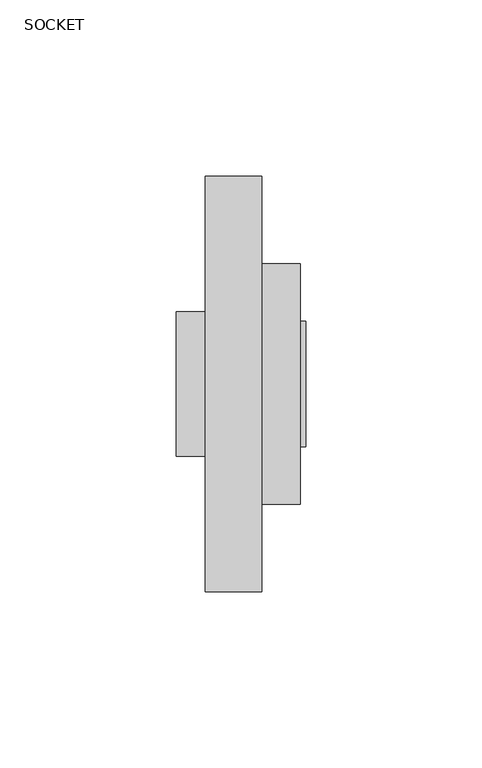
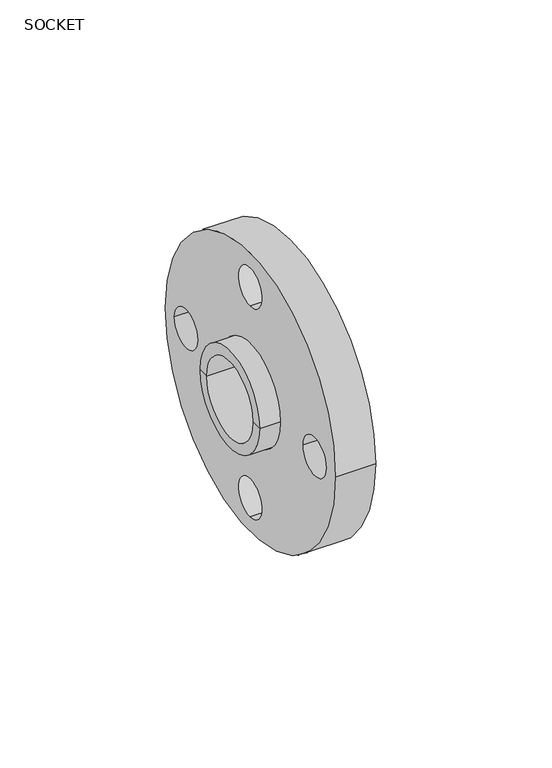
"""IFC4 building model written with IfcOpenShell, lengths in millimetres: valve geometry, Aquatherm - Flange Adapter Socket : SOCKET."""

from ifc_helpers import new_model, si_unit, point, frame, frame_2d, origin, origin_2d, place, context, project, spatial, polyline, circle_curve, trimmed, segment, composite_curve, outline, extrude, source, transform, mapped, element, save
from ifc_brep_helpers import plane_surface, cylinder_surface, revolved_surface, advanced_brep


def socket_70ea444d(model_context):
    return source(origin(), model_context, "Body", "SolidModel", [
        extrude(outline(composite_curve([segment(trimmed(circle_curve(origin_2d(), 58.801), [point((-58.801, 0.0))], [point((58.801, 0.0))], False, "CARTESIAN"), True, "CONTINUOUS"), segment(trimmed(circle_curve(origin_2d(), 58.801), [point((58.801, 0.0))], [point((-58.801, 0.0))], False, "CARTESIAN"), True, "CONTINUOUS")], self_intersect=False), holes=[composite_curve([segment(trimmed(circle_curve(origin_2d(), 20.701), [point((-20.701, 0.0))], [point((20.701, 0.0))], True, "CARTESIAN"), True, "CONTINUOUS"), segment(trimmed(circle_curve(origin_2d(), 20.701), [point((20.701, 0.0))], [point((-20.701, 0.0))], True, "CARTESIAN"), True, "CONTINUOUS")], self_intersect=False), composite_curve([segment(trimmed(circle_curve(frame_2d((44.45, 0.0)), 8.001), [point((36.449, 0.0))], [point((52.451, 0.0))], True, "CARTESIAN"), True, "CONTINUOUS"), segment(trimmed(circle_curve(frame_2d((44.45, 0.0)), 8.001), [point((52.451, 0.0))], [point((36.449, 0.0))], True, "CARTESIAN"), True, "CONTINUOUS")], self_intersect=False), composite_curve([segment(trimmed(circle_curve(frame_2d((0.0, -44.45)), 8.001), [point((0.0, -36.449))], [point((0.0, -52.451))], True, "CARTESIAN"), True, "CONTINUOUS"), segment(trimmed(circle_curve(frame_2d((0.0, -44.45)), 8.001), [point((0.0, -52.451))], [point((0.0, -36.449))], True, "CARTESIAN"), True, "CONTINUOUS")], self_intersect=False), composite_curve([segment(trimmed(circle_curve(frame_2d((0.0, 44.45)), 8.001), [point((0.0, 36.449))], [point((0.0, 52.451))], True, "CARTESIAN"), True, "CONTINUOUS"), segment(trimmed(circle_curve(frame_2d((0.0, 44.45)), 8.001), [point((0.0, 52.451))], [point((0.0, 36.449))], True, "CARTESIAN"), True, "CONTINUOUS")], self_intersect=False), composite_curve([segment(trimmed(circle_curve(frame_2d((-44.45, 0.0)), 8.001), [point((-36.449, 0.0))], [point((-52.451, 0.0))], True, "CARTESIAN"), True, "CONTINUOUS"), segment(trimmed(circle_curve(frame_2d((-44.45, 0.0)), 8.001), [point((-52.451, 0.0))], [point((-36.449, 0.0))], True, "CARTESIAN"), True, "CONTINUOUS")], self_intersect=False)]), frame((-16.002, 0.0, 0.0), z_axis=(1.0, 0.0, 0.0), x_axis=(0.0, 1.0, 0.0)), (0.0, 0.0, 1.0), 16.002),
        advanced_brep(
        [(12.446, 12.7, 0.0), (12.446, -12.7, 0.0), (12.446, -17.78, 0.0), (12.446, 17.78, 0.0), (-6.096, 12.7, 0.0), (-6.096, -12.7, 0.0), (-6.096, 16.002, 0.0), (-6.096, -16.002, 0.0), (-24.13, 16.002, 0.0), (-24.13, -16.002, 0.0), (-24.13, 20.447, 0.0), (-24.13, -20.447, 0.0), (0.0, 20.447, 0.0), (0.0, -20.447, 0.0), (0.0, 34.036, 0.0), (0.0, -34.036, 0.0), (10.922, 34.036, 0.0), (10.922, -34.036, 0.0), (10.922, 17.78, 0.0), (10.922, -17.78, 0.0)],
        [
            (0, 1, circle_curve(frame((12.446, 0.0, 0.0), z_axis=(-1.0, 0.0, 0.0), x_axis=(0.0, -1.0, 0.0)), 12.7)),
            (1, 2),
            (2, 3, circle_curve(frame((12.446, 0.0, 0.0), z_axis=(1.0, 0.0, 0.0), x_axis=(0.0, -1.0, 0.0)), 17.78)),
            (3, 0),
            (1, 0, circle_curve(frame((12.446, 0.0, 0.0), z_axis=(-1.0, 0.0, 0.0), x_axis=(0.0, -1.0, 0.0)), 12.7)),
            (3, 2, circle_curve(frame((12.446, 0.0, 0.0), z_axis=(1.0, 0.0, 0.0), x_axis=(0.0, -1.0, 0.0)), 17.78)),
            (4, 5, circle_curve(frame((-6.096, 0.0, 0.0), z_axis=(-1.0, 0.0, 0.0), x_axis=(0.0, -1.0, 0.0)), 12.7)),
            (5, 1),
            (0, 4),
            (5, 4, circle_curve(frame((-6.096, 0.0, 0.0), z_axis=(-1.0, 0.0, 0.0), x_axis=(0.0, -1.0, 0.0)), 12.7)),
            (6, 7, circle_curve(frame((-6.096, 0.0, 0.0), z_axis=(-1.0, 0.0, 0.0), x_axis=(0.0, -1.0, 0.0)), 16.002)),
            (7, 5),
            (4, 6),
            (7, 6, circle_curve(frame((-6.096, 0.0, 0.0), z_axis=(-1.0, 0.0, 0.0), x_axis=(0.0, -1.0, 0.0)), 16.002)),
            (8, 9, circle_curve(frame((-24.13, 0.0, 0.0), z_axis=(-1.0, 0.0, 0.0), x_axis=(0.0, -1.0, 0.0)), 16.002)),
            (9, 7),
            (6, 8),
            (9, 8, circle_curve(frame((-24.13, 0.0, 0.0), z_axis=(-1.0, 0.0, 0.0), x_axis=(0.0, -1.0, 0.0)), 16.002)),
            (10, 11, circle_curve(frame((-24.13, 0.0, 0.0), z_axis=(-1.0, 0.0, 0.0), x_axis=(0.0, -1.0, 0.0)), 20.447)),
            (11, 9),
            (8, 10),
            (11, 10, circle_curve(frame((-24.13, 0.0, 0.0), z_axis=(-1.0, 0.0, 0.0), x_axis=(0.0, -1.0, 0.0)), 20.447)),
            (12, 13, circle_curve(frame((0.0, 0.0, 0.0), z_axis=(-1.0, 0.0, 0.0), x_axis=(0.0, -1.0, 0.0)), 20.447)),
            (13, 11),
            (10, 12),
            (13, 12, circle_curve(frame((0.0, 0.0, 0.0), z_axis=(-1.0, 0.0, 0.0), x_axis=(0.0, -1.0, 0.0)), 20.447)),
            (14, 15, circle_curve(frame((0.0, 0.0, 0.0), z_axis=(-1.0, 0.0, 0.0), x_axis=(0.0, -1.0, 0.0)), 34.036)),
            (15, 13),
            (12, 14),
            (15, 14, circle_curve(frame((0.0, 0.0, 0.0), z_axis=(-1.0, 0.0, 0.0), x_axis=(0.0, -1.0, 0.0)), 34.036)),
            (16, 17, circle_curve(frame((10.922, 0.0, 0.0), z_axis=(-1.0, 0.0, 0.0), x_axis=(0.0, -1.0, 0.0)), 34.036)),
            (17, 15),
            (14, 16),
            (17, 16, circle_curve(frame((10.922, 0.0, 0.0), z_axis=(-1.0, 0.0, 0.0), x_axis=(0.0, -1.0, 0.0)), 34.036)),
            (18, 19, circle_curve(frame((10.922, 0.0, 0.0), z_axis=(-1.0, 0.0, 0.0), x_axis=(0.0, -1.0, 0.0)), 17.78)),
            (19, 17),
            (16, 18),
            (19, 18, circle_curve(frame((10.922, 0.0, 0.0), z_axis=(-1.0, 0.0, 0.0), x_axis=(0.0, -1.0, 0.0)), 17.78)),
            (2, 19),
            (18, 3),
        ],
        [
            plane_surface(frame((12.446, 0.0, 0.0), z_axis=(1.0, 0.0, 0.0), x_axis=(0.0, -1.0, 0.0))),
            revolved_surface(polyline([(12.445999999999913, -12.7, 0.0), (-6.096000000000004, -12.7, 0.0)]), (1441.7411939, 0.0, 0.0), (1.0, 0.0, 0.0)),
            plane_surface(frame((-6.096, 0.0, 0.0), z_axis=(-1.0, 0.0, 0.0), x_axis=(0.0, -1.0, 0.0))),
            revolved_surface(polyline([(-6.096000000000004, -16.002, 0.0), (-24.13000000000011, -16.002, 0.0)]), (1441.7411939, 0.0, 0.0), (1.0, 0.0, 0.0)),
            plane_surface(frame((-24.13, 0.0, 0.0), z_axis=(-1.0, 0.0, 0.0), x_axis=(0.0, -1.0, 0.0))),
            cylinder_surface(frame((1441.7411939, 0.0, 0.0), z_axis=(1.0, 0.0, 0.0), x_axis=(0.0, -1.0, 0.0)), 20.447),
            plane_surface(frame((0.0, 0.0, 0.0), z_axis=(-1.0, 0.0, 0.0), x_axis=(0.0, -1.0, 0.0))),
            cylinder_surface(frame((1441.7411939, 0.0, 0.0), z_axis=(1.0, 0.0, 0.0), x_axis=(0.0, -1.0, 0.0)), 34.036),
            plane_surface(frame((10.922, 0.0, 0.0), z_axis=(1.0, 0.0, 0.0), x_axis=(0.0, -1.0, 0.0))),
            cylinder_surface(frame((1441.7411939, 0.0, 0.0), z_axis=(1.0, 0.0, 0.0), x_axis=(0.0, -1.0, 0.0)), 17.78),
        ],
        [
            (0, [[1, 2, 3, 4]]),
            (0, [[5, -4, 6, -2]]),
            (1, [[7, 8, -1, 9]]),
            (1, [[10, -9, -5, -8]]),
            (2, [[11, 12, -7, 13]]),
            (2, [[14, -13, -10, -12]]),
            (3, [[15, 16, -11, 17]]),
            (3, [[18, -17, -14, -16]]),
            (4, [[19, 20, -15, 21]]),
            (4, [[22, -21, -18, -20]]),
            (5, [[23, 24, -19, 25]]),
            (5, [[26, -25, -22, -24]]),
            (6, [[27, 28, -23, 29]]),
            (6, [[30, -29, -26, -28]]),
            (7, [[31, 32, -27, 33]]),
            (7, [[34, -33, -30, -32]]),
            (8, [[35, 36, -31, 37]]),
            (8, [[38, -37, -34, -36]]),
            (9, [[-3, 39, -35, 40]]),
            (9, [[-6, -40, -38, -39]]),
        ],
    ),
    ])


if __name__ == "__main__":
    model = new_model("IFC4")
    model_context = context("Model", 3, world=origin())
    ifc_project = project(units=[si_unit("LENGTHUNIT", "METRE", prefix="MILLI")], contexts=[model_context])
    site = spatial("IfcSite", under=ifc_project)
    building = spatial("IfcBuilding", under=site)
    placement = place(None, origin())
    ifc_socket_shape = socket_70ea444d(model_context)
    element("IfcValve", 1, ObjectType="Aquatherm - Flange Adapter Socket : SOCKET", at=placement, inside=building, context=model_context, shape_type="MappedRepresentation", body=[
        mapped(ifc_socket_shape, transform((0.0, 0.0, 0.0), x_axis=(1.0, 0.0, 0.0), y_axis=(0.0, 1.0, 0.0), z_axis=(0.0, 0.0, 1.0))),
    ])
    save(model, "model.ifc")
